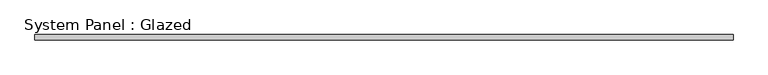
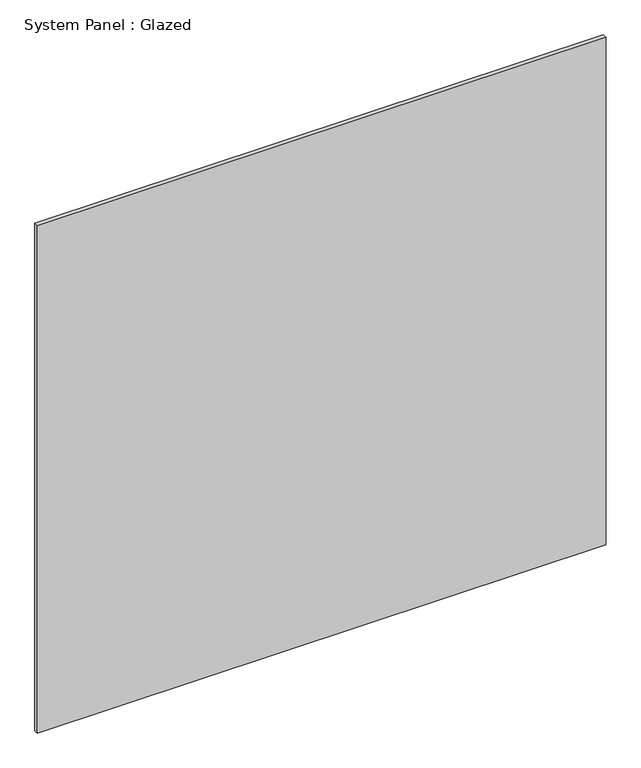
"""IFC4 building model written with IfcOpenShell, lengths in millimetres: plate geometry, System Panel : Glazed."""

from ifc_helpers import new_model, si_unit, origin, origin_with_axes, place, context, project, spatial, polyline, outline, extrude, source, transform, mapped, element, save


def system_panel_glazed_a16f1b96(model_context):
    return source(origin(), model_context, "Body", "SweptSolid", [
        extrude(outline(polyline([(1643.75, -49.5), (-1643.75, -49.5), (-1643.75, -24.5), (1643.75, -24.5), (1643.75, -49.5)])), origin_with_axes(), (0.0, 0.0, 1.0), 3100.0),
    ])


if __name__ == "__main__":
    model = new_model("IFC4")
    model_context = context("Model", 3, world=origin())
    ifc_project = project(units=[si_unit("LENGTHUNIT", "METRE", prefix="MILLI")], contexts=[model_context])
    site = spatial("IfcSite", under=ifc_project)
    building = spatial("IfcBuilding", under=site)
    placement = place(None, origin())
    system_panel_glazed_shape = system_panel_glazed_a16f1b96(model_context)
    element("IfcPlate", 1, ObjectType="System Panel : Glazed", at=placement, inside=building, context=model_context, shape_type="MappedRepresentation", body=[
        mapped(system_panel_glazed_shape, transform((0.0, 0.0, 0.0), x_axis=(1.0, 0.0, 0.0), y_axis=(0.0, 1.0, 0.0), z_axis=(0.0, 0.0, 1.0))),
    ])
    save(model, "model.ifc")
